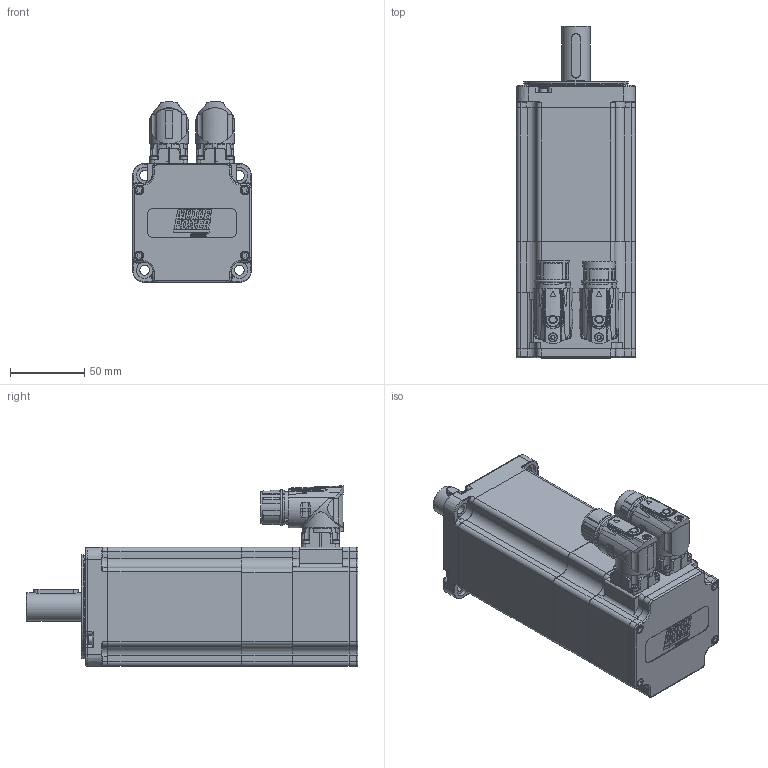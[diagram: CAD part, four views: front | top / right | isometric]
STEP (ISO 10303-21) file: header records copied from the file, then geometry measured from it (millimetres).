
FILE_DESCRIPTION(/* description */ ('Unknown'),/* implementation_level */ '2;1');
FILE_NAME(/* name */ 'TC4-80.3C.XX.X.3.M1.1.1.G2.33.80 Q0D209',/* time_stamp */ '2026-03-04T10:36:27+01:00',/* author */ ('Unknown'),/* organization */ ('Unknown'),/* preprocessor_version */ 'ST-DEVELOPER v19.4',/* originating_system */ 'Solid Edge',/* authorisation */ 'Unknown');
FILE_SCHEMA (('AUTOMOTIVE_DESIGN {1 0 10303 214 3 1 1}'));
Products named in the file (15): Q0D209 3C FRENO M1 VUOTO; 003103040223; N27294 mod; 005119001500; 005911000192; 003107003286; 005113000500; 003151003154; 005911000185; 005911000202; 007117000456; 007117000454; 003003200203; 005711000130; 003251040719
Assembly tree (27 placements, depth 2):
  Q0D209 3C FRENO M1 VUOTO
    003103040223
    N27294 mod
    005119001500
    005911000192  x4
    003107003286
    005113000500
    003151003154
    005911000185  x8
    005911000202  x4
    007117000456
    007117000454
    003003200203
    005711000130
    003251040719
Bounding box: 80 x 223 x 121.5 mm (x, y, z)
Volume: 437248.8 mm3; surface area: 203017.7 mm2
Topology: 29 solids, 29 shells, 2280 faces, 5706 edges, 3663 vertices
Faces by surface type: plane 986, cylinder 570, bspline 290, cone 267, torus 118, sphere 49
Full cylindrical faces by diameter (mm): 0.5 x1, 1 x21, 1.2 x17, 1.4 x4, 2 x4, 2.013 x12, 2.459 x36, 2.5 x9, 2.8 x4, 3 x20, 3.2 x1, 3.5 x14, 4.5 x2, 4.7 x8, 4.917 x1, 5.5 x10, 5.8 x1, 5.9 x2, 6 x6, 6.5 x4, 6.6 x4, 6.8 x1, 7 x4, 10 x1, 11 x4, 15 x2, 15.2 x1, 17 x1, 17.4 x3, 18 x1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
Entity records: 80612 total; most frequent: CARTESIAN_POINT 22098, ORIENTED_EDGE 9516, DIRECTION 8952, EDGE_CURVE 4758, AXIS2_PLACEMENT_3D 3438, VERTEX_POINT 3288, FACE_BOUND 2760, EDGE_LOOP 2731
